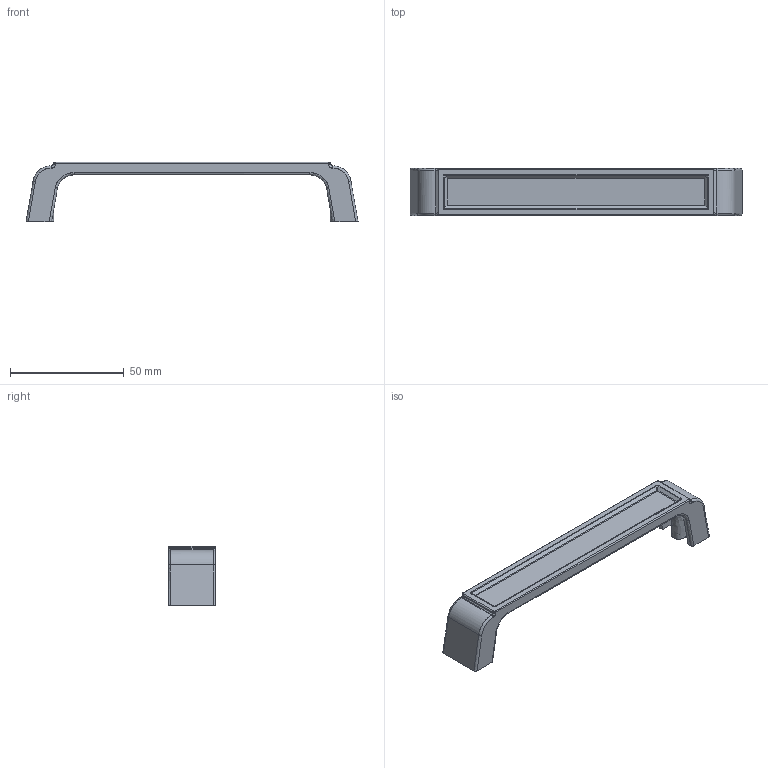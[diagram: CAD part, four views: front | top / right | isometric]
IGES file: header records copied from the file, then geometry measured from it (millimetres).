
Start section: C
Global section: file name: 8326.igs; native system: By Siemens PLM Incorporated; preprocessor: XPlus GENERIC/IGES 16.0.42; author: Author; organization: Title; date: 20210505.114310; units: millimetre
Bounding box: 146 x 21 x 26 mm (x, y, z)
Surface area: 11754.5 mm2 (no closed solid volume)
Topology: 0 solids, 0 shells, 119 faces, 596 edges, 592 vertices
Faces by surface type: bspline 119
